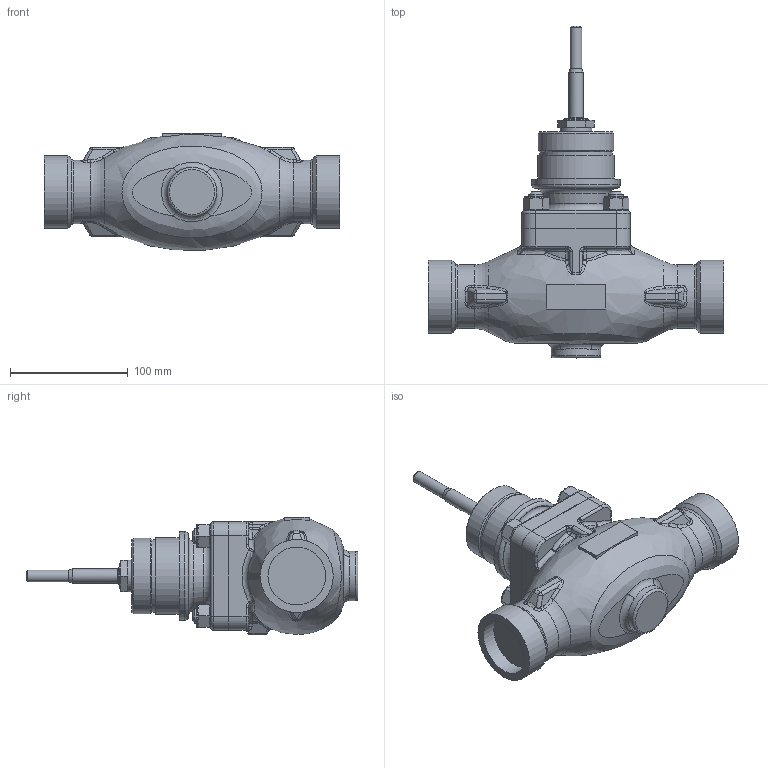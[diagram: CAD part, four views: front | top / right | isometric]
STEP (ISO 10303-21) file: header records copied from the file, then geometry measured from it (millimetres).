
FILE_DESCRIPTION(/* description */ (''),/* implementation_level */ '2;1');
FILE_NAME(/* name */ 'CV3xx_NPS_1a1_2_privarovaci_SW_CL300.stp',/* time_stamp */ '2017-05-05T08:01:38+02:00',/* author */ (''),/* organization */ (''),/* preprocessor_version */ 'ST-DEVELOPER v15',/* originating_system */ 'SIEMENS PLM Software NX 8.5',/* authorisation */ '');
FILE_SCHEMA (('AP203_CONFIGURATION_CONTROLLED_3D_DESIGN_OF_MECHANICAL_PARTS_AND_ASSEMBLIES_MIM_LF { 1 0 10303 403 2 1 2}'));
Length unit declared in the file: millimetre
Products named in the file (1): adam123C24F3gp69
Bounding box: 251 x 282 x 100 mm (x, y, z)
Volume: 1622098.6 mm3; surface area: 125032.5 mm2
Topology: 1 solids, 1 shells, 429 faces, 970 edges, 557 vertices
Faces by surface type: cylinder 109, plane 107, bspline 92, cone 76, torus 29, sphere 16
Full cylindrical faces by diameter (mm): 10 x1, 12 x9, 14 x5, 18 x1, 19 x8, 21 x1, 27 x1, 42 x1, 49 x2, 54 x2, 61.6 x1, 62 x2, 64 x1, 65 x1, 75 x1, 76 x1
Entity records: 13151 total; most frequent: CARTESIAN_POINT 4684, ORIENTED_EDGE 1698, DIRECTION 1684, EDGE_CURVE 849, AXIS2_PLACEMENT_3D 746, EDGE_LOOP 534, VERTEX_POINT 519, ADVANCED_FACE 429
